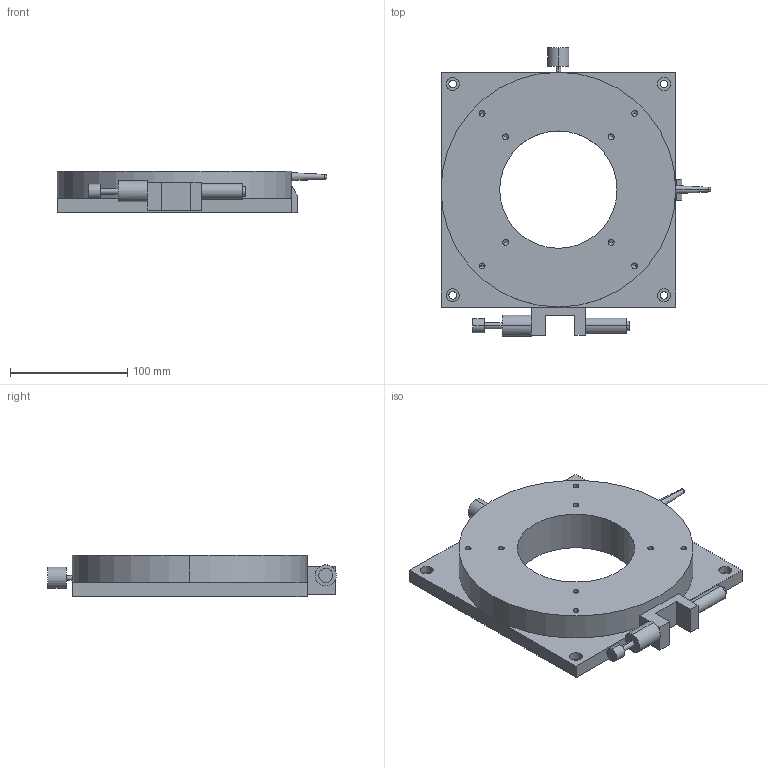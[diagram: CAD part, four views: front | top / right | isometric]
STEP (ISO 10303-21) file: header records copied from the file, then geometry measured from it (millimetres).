
FILE_DESCRIPTION (( 'STEP AP203' ), '1' );
FILE_NAME ('PT-R200.STEP', '2022-04-16T02:19:12', ( '' ), ( '' ), 'SwSTEP 2.0', 'SolidWorks 2017', '' );
FILE_SCHEMA (( 'CONFIG_CONTROL_DESIGN' ));
Length unit declared in the file: millimetre
Products named in the file (1): PT-R200
Bounding box: 230 x 246 x 35 mm (x, y, z)
Volume: 957715.9 mm3; surface area: 114474.4 mm2
Topology: 5 solids, 5 shells, 113 faces, 255 edges, 153 vertices
Faces by surface type: cylinder 50, plane 43, cone 18, sphere 2
Entity records: 3142 total; most frequent: DIRECTION 579, CARTESIAN_POINT 506, ORIENTED_EDGE 478, EDGE_CURVE 239, AXIS2_PLACEMENT_3D 226, VERTEX_POINT 153, EDGE_LOOP 140, LINE 127
